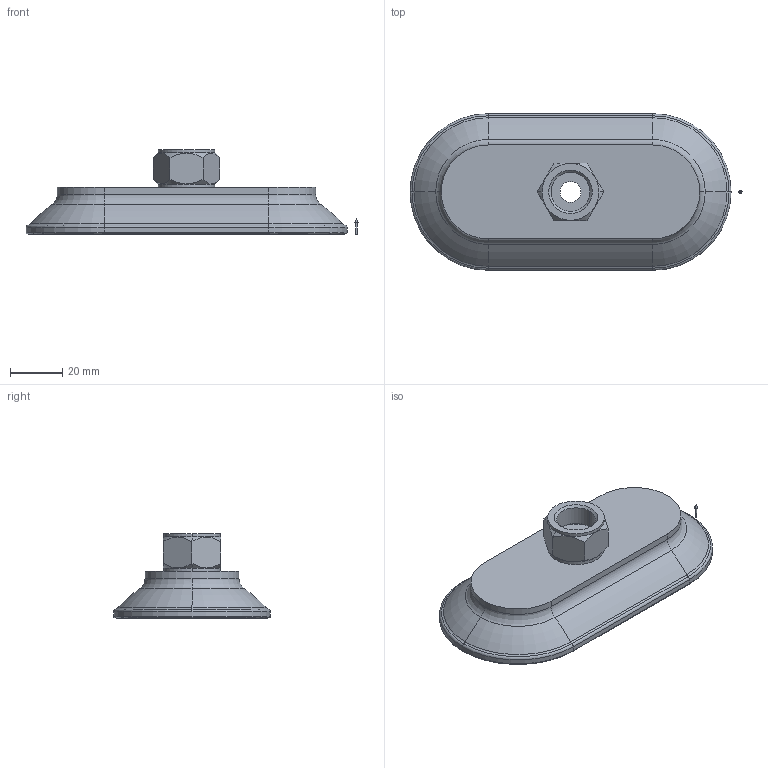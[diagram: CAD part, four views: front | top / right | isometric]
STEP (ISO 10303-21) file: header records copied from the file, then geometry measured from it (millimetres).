
FILE_DESCRIPTION(('STEP AP214'),'1');
FILE_NAME('10_01_05_00275.stp','2020-10-24T00:37:25',('TraceParts'),('TraceParts S.A.'),'Spatial InterOp 3D',' ',' ');
FILE_SCHEMA(('AUTOMOTIVE_DESIGN { 1 0 10303 214 1 1 1 1 }'));
Length unit declared in the file: millimetre
Products named in the file (1): 10_01_05_00275_1
Bounding box: 127.2 x 60 x 32.5 mm (x, y, z)
Volume: 56830.9 mm3; surface area: 18813.2 mm2
Topology: 2 solids, 2 shells, 93 faces, 200 edges, 113 vertices
Faces by surface type: cylinder 32, torus 28, plane 19, cone 14
Entity records: 3252 total; most frequent: DIRECTION 496, CARTESIAN_POINT 430, ORIENTED_EDGE 396, AXIS2_PLACEMENT_3D 215, EDGE_CURVE 198, CIRCLE 120, VERTEX_POINT 113, EDGE_LOOP 99
